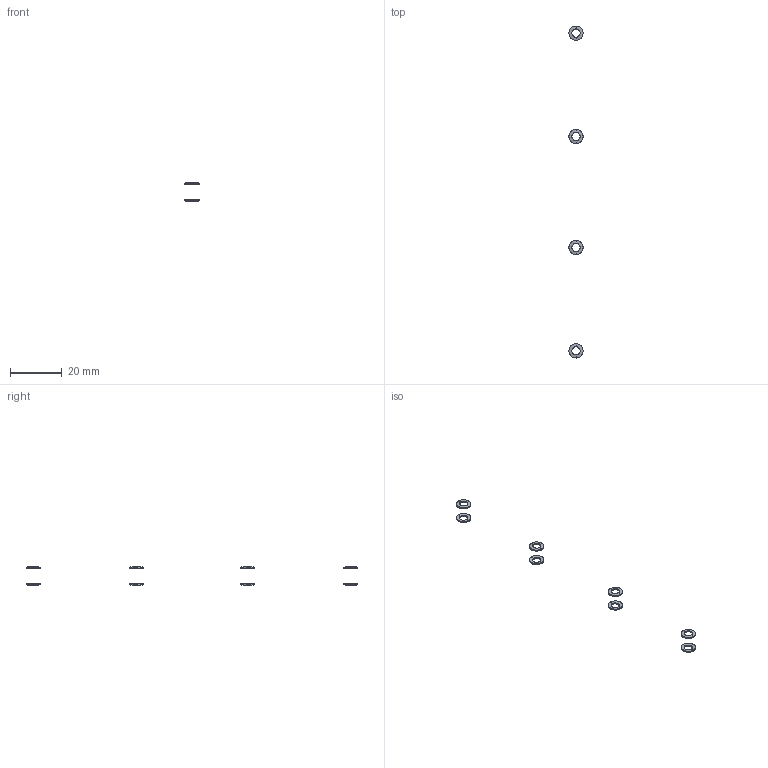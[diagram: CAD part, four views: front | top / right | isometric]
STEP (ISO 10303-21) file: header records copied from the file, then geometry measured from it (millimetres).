
FILE_DESCRIPTION(/* description */ (''),/* implementation_level */ '2;1');
FILE_NAME(/* name */ '9.electronics#9.3#GTS3',/* time_stamp */ '2014-12-01T20:18:48+01:00',/* author */ (''),/* organization */ (''),/* preprocessor_version */ 'ST-DEVELOPER v14',/* originating_system */ '',/* authorisation */ '');
FILE_SCHEMA (('AUTOMOTIVE_DESIGN'));
Length unit declared in the file: millimetre
Products named in the file (2): Document; washer Schnorr-like, lock, M3
Assembly tree (4 placements, depth 2):
  Document
    washer Schnorr-like, lock, M3  x4
Bounding box: 5.49 x 128.5 x 7.2 mm (x, y, z)
Surface area: 352.1 mm2 (no closed solid volume)
Topology: 0 solids, 64 shells, 64 faces, 256 edges, 256 vertices
Faces by surface type: bspline 64
Entity records: 3603 total; most frequent: CARTESIAN_POINT 1767, B_SPLINE_CURVE_WITH_KNOTS 240, ORIENTED_EDGE 160, PCURVE 160, DEFINITIONAL_REPRESENTATION 160, SURFACE_CURVE 160, EDGE_CURVE 160, VERTEX_POINT 160
